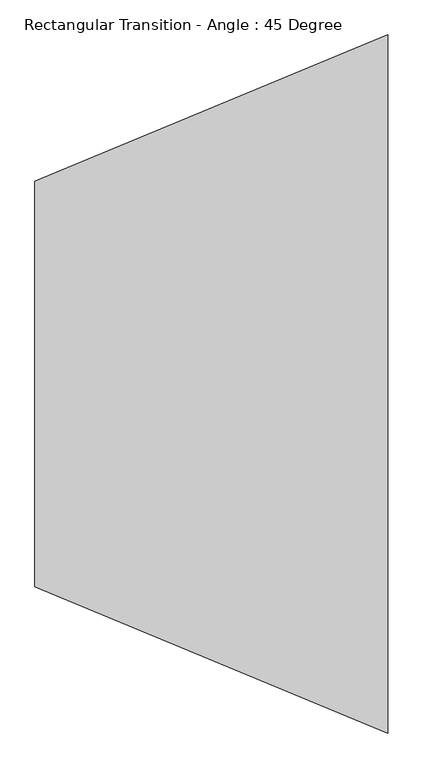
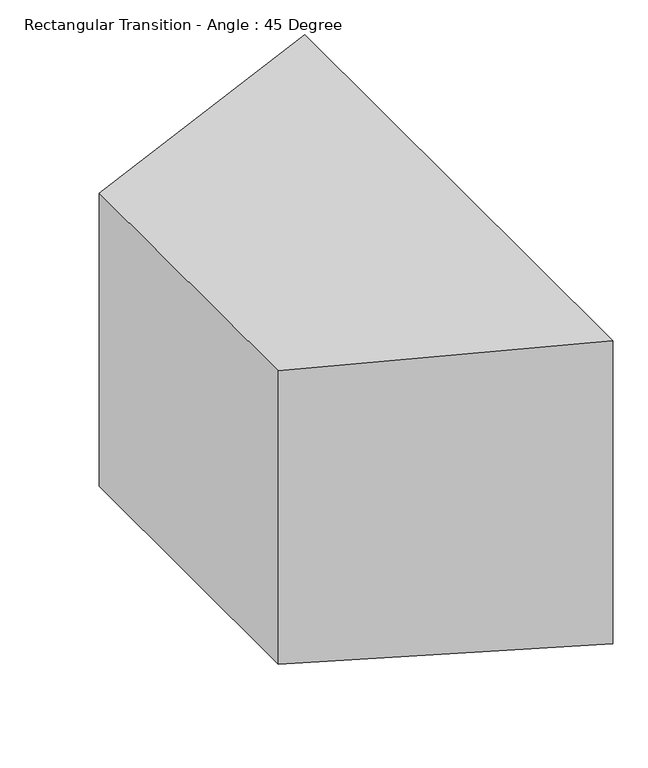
"""IFC4 building model written with IfcOpenShell, lengths in millimetres: duct fitting geometry, Rectangular Transition - Angle : 45 Degree."""

from ifc_helpers import new_model, si_unit, origin, place, context, project, spatial, faceted_brep, source, transform, mapped, element, save


def rectangular_transition_angle_45_degree_ff28eb7c(model_context):
    return source(origin(), model_context, "Body", "Brep", [
        faceted_brep([(505.7475636, -500.0, 300.0), (505.7475636, -500.0, -300.0), (505.7475636, 500.0, -300.0), (505.7475636, 500.0, 300.0), (0.0, -290.5125, 290.5125), (0.0, 290.5125, 290.5125), (0.0, 290.5125, -290.5125), (0.0, -290.5125, -290.5125)], [[[0, 1, 2, 3]], [[4, 5, 6, 7]], [[4, 7, 1, 0]], [[7, 6, 2, 1]], [[6, 5, 3, 2]], [[5, 4, 0, 3]]]),
    ])


if __name__ == "__main__":
    model = new_model("IFC4")
    model_context = context("Model", 3, world=origin())
    ifc_project = project(units=[si_unit("LENGTHUNIT", "METRE", prefix="MILLI")], contexts=[model_context])
    site = spatial("IfcSite", under=ifc_project)
    building = spatial("IfcBuilding", under=site)
    placement = place(None, origin())
    rectangular_transition_angle_45_degree_shape = rectangular_transition_angle_45_degree_ff28eb7c(model_context)
    element("IfcDuctFitting", 1, ObjectType="Rectangular Transition - Angle : 45 Degree", at=placement, inside=building, context=model_context, shape_type="MappedRepresentation", body=[
        mapped(rectangular_transition_angle_45_degree_shape, transform((0.0, 0.0, 0.0), x_axis=(1.0, 0.0, 0.0), y_axis=(0.0, 1.0, 0.0), z_axis=(0.0, 0.0, 1.0))),
    ])
    save(model, "model.ifc")
